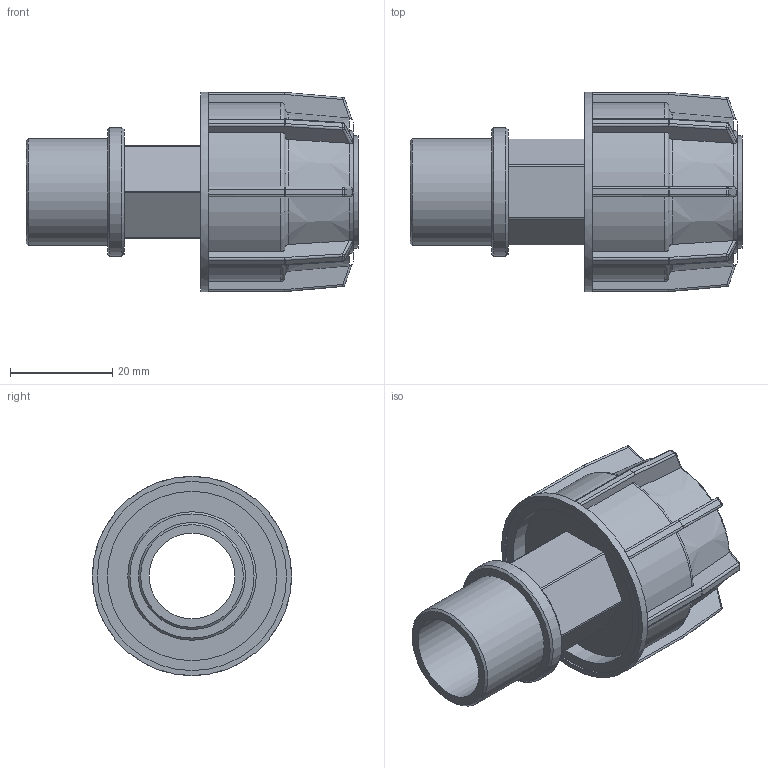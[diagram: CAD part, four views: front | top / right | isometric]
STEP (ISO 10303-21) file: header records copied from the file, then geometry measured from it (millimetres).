
FILE_DESCRIPTION(/* description */ ('PLASSON IRRIFIT ADAPTOR 20-1/2"M'),/* implementation_level */ '2;1');
FILE_NAME(/* name */ 'C:\Dropbox\KIMPROJECTS-Inventor\99-16-3568-Processing\Silver+MF ISRAEL\040207\040207020005.ipt.stp',/* time_stamp */ '2018-04-09T12:59:37+03:00',/* author */ ('KIM'),/* organization */ (''),/* preprocessor_version */ 'ST-DEVELOPER v15.6',/* originating_system */ 'Autodesk Inventor 2015',/* authorisation */ '');
FILE_SCHEMA (('AUTOMOTIVE_DESIGN { 1 0 10303 214 3 1 1 }'));
Length unit declared in the file: millimetre
Products named in the file (1): 040207020005
Bounding box: 65 x 39 x 39 mm (x, y, z)
Volume: 19809.3 mm3; surface area: 13099.2 mm2
Topology: 1 solids, 1 shells, 283 faces, 654 edges, 381 vertices
Faces by surface type: plane 142, cylinder 81, sphere 32, torus 17, cone 11
Full cylindrical faces by diameter (mm): 16.764 x1, 20 x1, 20.955 x1, 22 x1, 24 x1, 25.146 x1, 33.15 x1, 37.05 x1, 39 x1
Entity records: 8354 total; most frequent: CARTESIAN_POINT 2136, DIRECTION 1300, ORIENTED_EDGE 1280, EDGE_CURVE 640, AXIS2_PLACEMENT_3D 512, VERTEX_POINT 380, EDGE_LOOP 306, FACE_OUTER_BOUND 283
